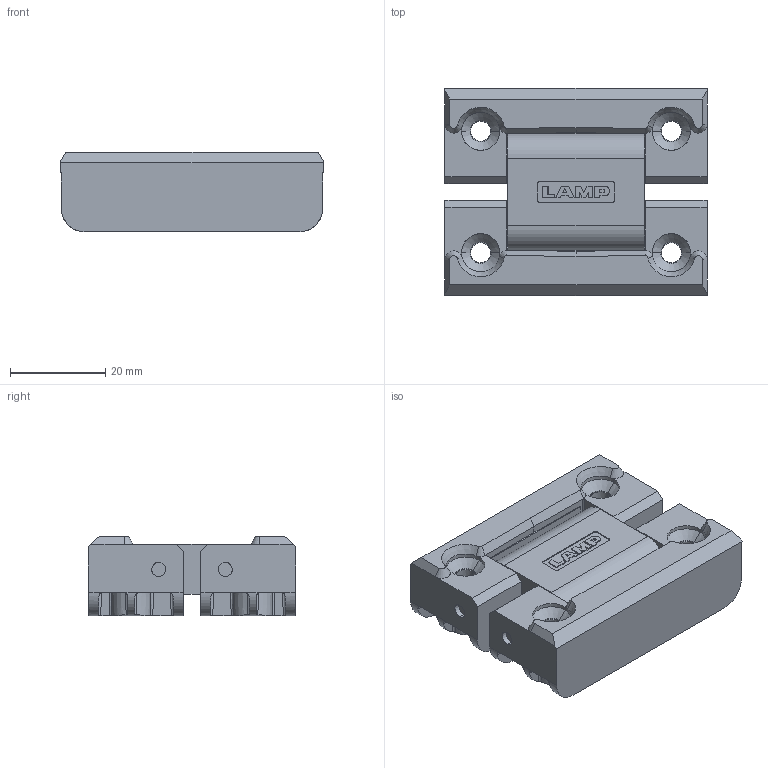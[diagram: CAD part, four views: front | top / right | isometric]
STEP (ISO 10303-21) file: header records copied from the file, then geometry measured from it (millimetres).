
FILE_DESCRIPTION (( 'STEP AP203' ), '1' );
FILE_NAME ('hg-tmh_1.step', '2019-10-09T05:12:08', ( '' ), ( '' ), 'SwSTEP 2.0', 'SolidWorks 2017', '' );
FILE_SCHEMA (( 'CONFIG_CONTROL_DESIGN' ));
Length unit declared in the file: millimetre
Products named in the file (3): hg-tmh_body1; hg-tmh_body2; hg-tmh_1
Assembly tree (3 placements, depth 2):
  hg-tmh_1
    hg-tmh_body2
    hg-tmh_body1  x2
Bounding box: 55 x 43.49 x 16.75 mm (x, y, z)
Volume: 26336.7 mm3; surface area: 16347.5 mm2
Topology: 3 solids, 3 shells, 959 faces, 2238 edges, 1326 vertices
Faces by surface type: plane 297, cylinder 266, sphere 136, bspline 132, cone 112, torus 16
Entity records: 16356 total; most frequent: CARTESIAN_POINT 4900, ORIENTED_EDGE 2436, DIRECTION 2193, EDGE_CURVE 1218, AXIS2_PLACEMENT_3D 808, VERTEX_POINT 729, VECTOR 577, LINE 577
